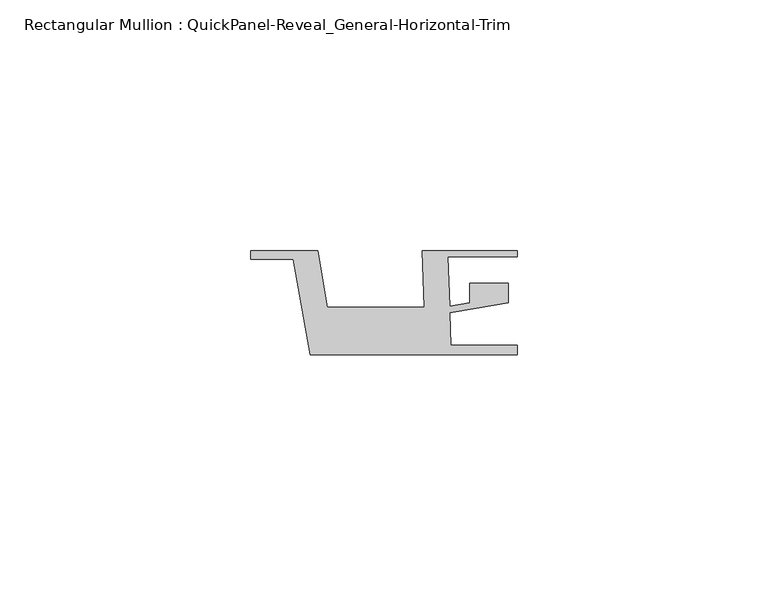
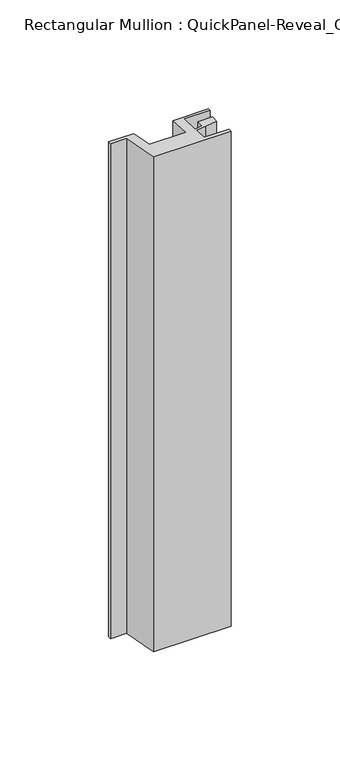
"""IFC4 building model written with IfcOpenShell, lengths in millimetres: member geometry, Rectangular Mullion : QuickPanel-Reveal_General-Horizontal-Trim."""

from ifc_helpers import new_model, si_unit, frame, origin, place, context, project, spatial, polyline, outline, extrude, source, transform, mapped, element, save


def rectangular_mullion_quickpanel_reveal_general_horizontal_2cbfa09c(model_context):
    return source(origin(), model_context, "Body", "SweptSolid", [
        extrude(outline(polyline([(28.3897075, -8.6293878), (-12.9047811, -8.6293878), (-16.27755, 10.4985348), (-24.8029806, 10.4985348), (-24.8029806, 12.1803727), (-11.4233548, 12.1803727), (-9.490275, 0.9043028), (9.8003757, 0.9043028), (9.4066067, 12.1803727), (28.3897075, 12.1803727), (28.3897075, 10.9303752), (14.533354, 10.9303752), (14.8772811, 1.0815922), (18.86285, 1.7648465), (18.86285, 5.6493034), (26.6076231, 5.6493034), (26.6076231, 1.8040245), (20.1722905, 0.7008023), (14.9220096, -0.1992641), (15.1487948, -6.6935423), (28.3897075, -6.6935423), (28.3897075, -8.6293878)])), frame((0.0, 0.0, -277.9567492), z_axis=(0.0, 0.0, 1.0), x_axis=(1.0, 0.0, 0.0)), (0.0, 0.0, 1.0), 277.9567492),
    ])


if __name__ == "__main__":
    model = new_model("IFC4")
    model_context = context("Model", 3, world=origin())
    ifc_project = project(units=[si_unit("LENGTHUNIT", "METRE", prefix="MILLI")], contexts=[model_context])
    site = spatial("IfcSite", under=ifc_project)
    building = spatial("IfcBuilding", under=site)
    placement = place(None, origin())
    rectangular_mullion_quickpanel_reveal_general_horizontal_shape = rectangular_mullion_quickpanel_reveal_general_horizontal_2cbfa09c(model_context)
    element("IfcMember", 1, ObjectType="Rectangular Mullion : QuickPanel-Reveal_General-Horizontal-Trim", at=placement, inside=building, context=model_context, shape_type="MappedRepresentation", body=[
        mapped(rectangular_mullion_quickpanel_reveal_general_horizontal_shape, transform((0.0, 0.0, 0.0), x_axis=(1.0, 0.0, 0.0), y_axis=(0.0, 1.0, 0.0), z_axis=(0.0, 0.0, 1.0))),
    ])
    save(model, "model.ifc")
